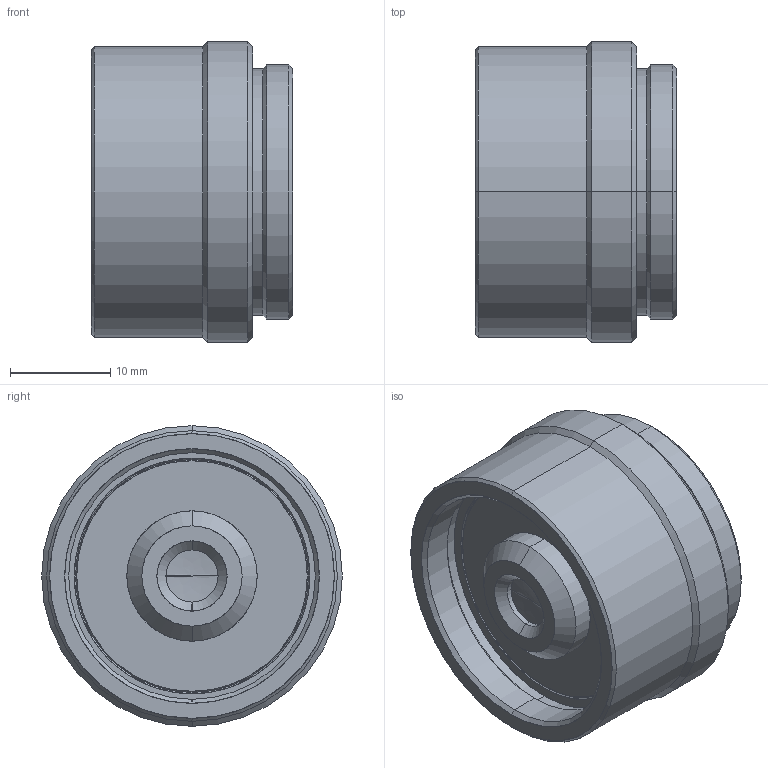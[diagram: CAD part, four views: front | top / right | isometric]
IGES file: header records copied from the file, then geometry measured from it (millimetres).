
Start section: SolidWorks IGES file using analytic representation for surfaces
Bounding box: 20.11 x 30 x 30 mm (x, y, z)
Surface area: 4473.4 mm2 (no closed solid volume)
Topology: 0 solids, 0 shells, 72 faces, 960 edges, 960 vertices
Faces by surface type: revolution 62, bspline 10
